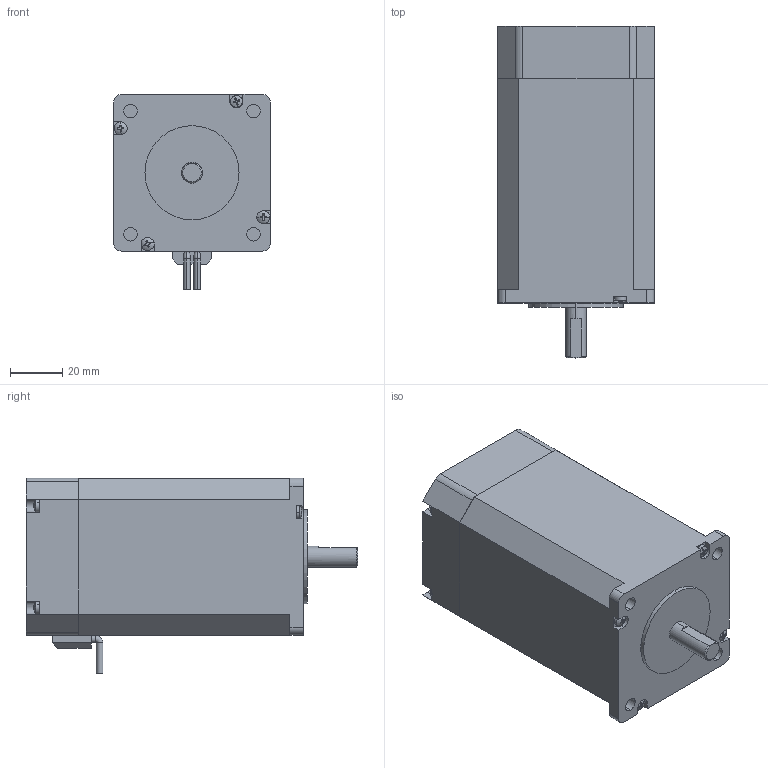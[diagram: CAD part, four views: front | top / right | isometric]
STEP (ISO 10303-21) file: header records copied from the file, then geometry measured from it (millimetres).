
FILE_DESCRIPTION (( 'STEP AP203' ), '1' );
FILE_NAME ('60BG30-EC.STEP', '2024-10-13T14:23:24', ( '' ), ( '' ), 'SwSTEP 2.0', 'SolidWorks 2022', '' );
FILE_SCHEMA (( 'CONFIG_CONTROL_DESIGN' ));
Length unit declared in the file: millimetre
Products named in the file (1): 60BG30-EC
Bounding box: 60 x 127 x 74.76 mm (x, y, z)
Volume: 371734.4 mm3; surface area: 40556.3 mm2
Topology: 10 solids, 10 shells, 310 faces, 804 edges, 530 vertices
Faces by surface type: plane 187, cylinder 101, sphere 16, torus 4, cone 2
Entity records: 9729 total; most frequent: CARTESIAN_POINT 2009, DIRECTION 1650, ORIENTED_EDGE 1608, EDGE_CURVE 804, AXIS2_PLACEMENT_3D 633, VERTEX_POINT 530, LINE 384, VECTOR 384
